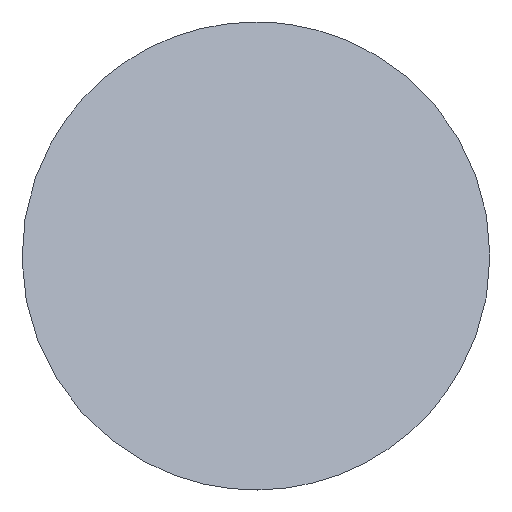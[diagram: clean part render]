
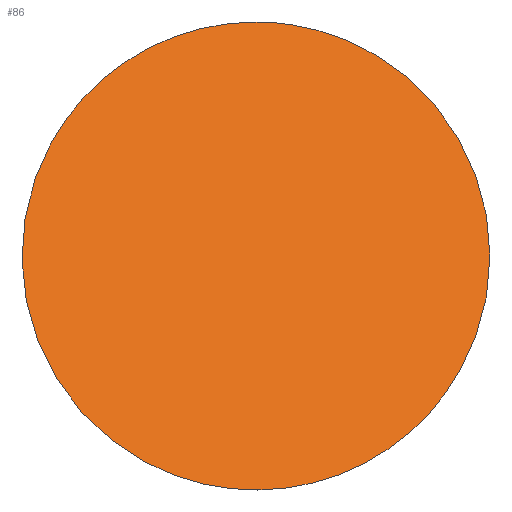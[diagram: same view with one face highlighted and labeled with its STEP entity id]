
A CAD part, left-side view. The second image highlights one B-rep face of the part: STEP entity #86.
In plain terms, the highlighted planar face has unit normal (-0.743, 0, 0.67).
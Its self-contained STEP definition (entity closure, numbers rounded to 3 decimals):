
#42=PLANE('',#82);
#46=ORIENTED_EDGE('',*,*,#52,.T.);
#48=ELLIPSE('',#80,10.772,8.);
#50=VERTEX_POINT('',#73);
#52=EDGE_CURVE('',#50,#50,#48,.T.);
#56=EDGE_LOOP('',(#46));
#60=FACE_BOUND('',#56,.T.);
#64=DIRECTION('',(-0.743,0.,0.67));
#65=DIRECTION('',(0.67,0.,0.743));
#68=DIRECTION('',(-0.743,0.,0.67));
#69=DIRECTION('',(0.,0.743,0.));
#73=CARTESIAN_POINT('',(-1.041,0.,8.));
#74=CARTESIAN_POINT('',(-8.255,0.,0.));
#77=CARTESIAN_POINT('',(200.412,0.,231.393));
#80=AXIS2_PLACEMENT_3D('',#74,#64,#65);
#82=AXIS2_PLACEMENT_3D('',#77,#68,#69);
#86=ADVANCED_FACE('',(#60),#42,.T.);
